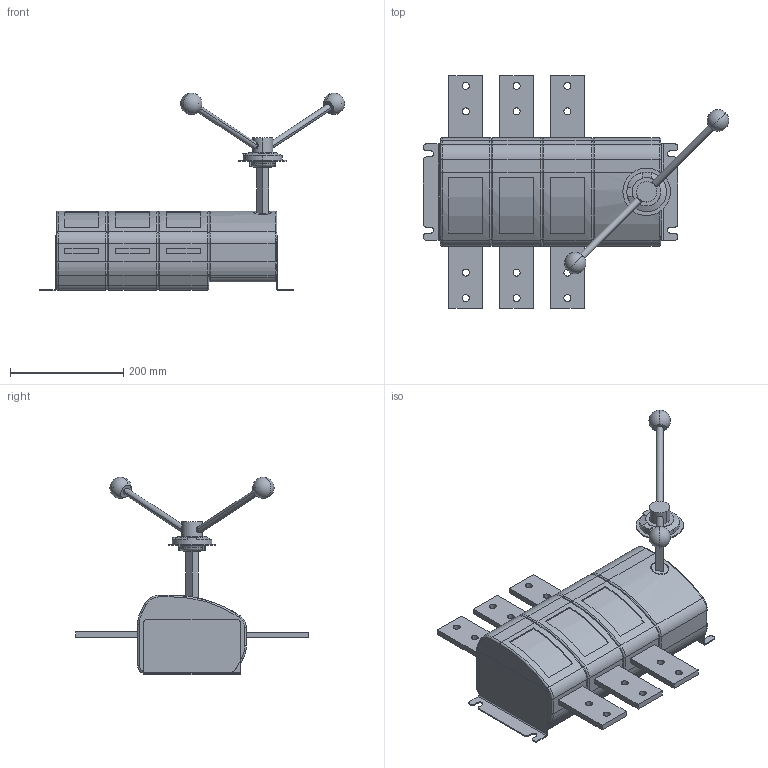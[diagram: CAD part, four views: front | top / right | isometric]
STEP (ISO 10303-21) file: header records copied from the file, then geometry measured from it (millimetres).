
FILE_DESCRIPTION (( 'STEP AP214' ), '1' );
FILE_NAME ('Âûêëþ÷àòåëü íàãðóçêè ÂÍÊ-43-31130-1600À-IP32-ÓÕË3-ÊÝÀÇ.STEP', '2023-04-19T13:46:01', ( '' ), ( '' ), 'SwSTEP 2.0', 'SolidWorks 2018', '' );
FILE_SCHEMA (( 'AUTOMOTIVE_DESIGN' ));
Length unit declared in the file: millimetre
Products named in the file (1): Âûêëþ÷àòåëü íàãðóçêè ÂÍÊ-43-31130-1600À-IP32-ÓÕË3-ÊÝÀÇ
Bounding box: 539.34 x 411.4 x 349.8 mm (x, y, z)
Volume: 9648378.3 mm3; surface area: 582724.7 mm2
Topology: 9 solids, 9 shells, 356 faces, 851 edges, 528 vertices
Faces by surface type: cylinder 153, plane 137, torus 60, sphere 4, cone 2
Entity records: 14670 total; most frequent: CARTESIAN_POINT 2124, DIRECTION 1922, ORIENTED_EDGE 1682, EDGE_CURVE 841, AXIS2_PLACEMENT_3D 744, VERTEX_POINT 522, VECTOR 434, LINE 434
